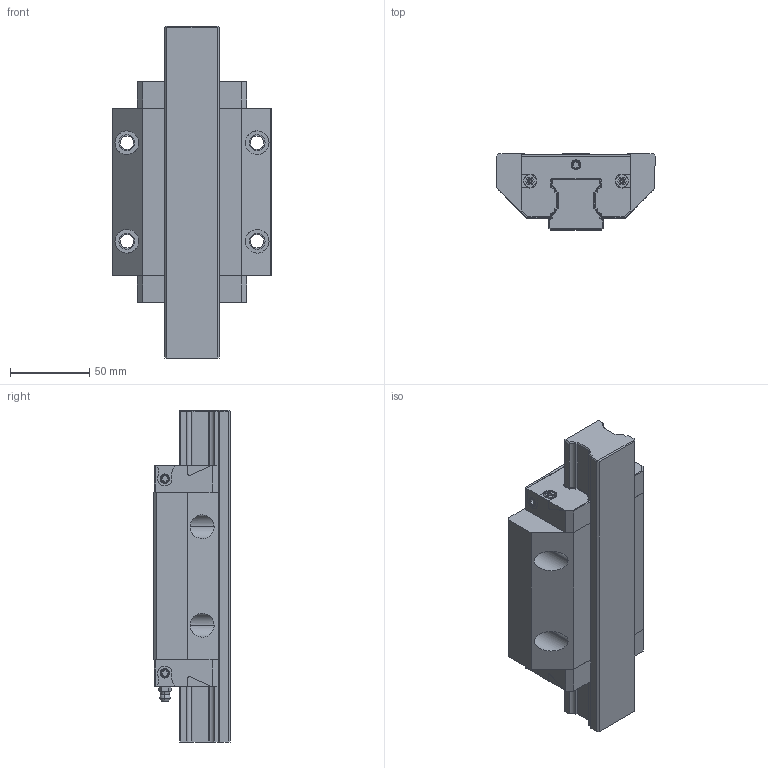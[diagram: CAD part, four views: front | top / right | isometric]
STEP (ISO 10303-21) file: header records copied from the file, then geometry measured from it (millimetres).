
FILE_DESCRIPTION((''),'2;1');
FILE_NAME('KWD_035_FLS_CS__ASM','2021-10-13T05:38:39',('ac91sw'),(''),'CREO PARAMETRIC BY PTC INC, 2020044','CREO PARAMETRIC BY PTC INC, 2020044','');
FILE_SCHEMA(('AUTOMOTIVE_DESIGN { 1 0 10303 214 1 1 1 1 }'));
Length unit declared in the file: millimetre
Products named in the file (7): KWD_035_FLS_CS__SKEL; R200230101; R200130102_Z; R343706101_Z; KWD_035_FLS_CS__PSF; R341700802_Z; KWD_035_FLS_CS__ASM
Assembly tree (11 placements, depth 2):
  KWD_035_FLS_CS__ASM
    KWD_035_FLS_CS__SKEL
    R200230101
    R200130102_Z  x2
    R343706101_Z  x5
    KWD_035_FLS_CS__PSF
    R341700802_Z
Bounding box: 100 x 48 x 209 mm (x, y, z)
Volume: 505928.7 mm3; surface area: 106659.6 mm2
Topology: 10 solids, 28 shells, 546 faces, 1398 edges, 894 vertices
Faces by surface type: plane 306, cylinder 166, cone 68, torus 4, sphere 2
Entity records: 17728 total; most frequent: CARTESIAN_POINT 2315, DIRECTION 1848, ORIENTED_EDGE 1716, EDGE_CURVE 882, PROPERTY_DEFINITION 824, REPRESENTATION 815, PROPERTY_DEFINITION_REPRESENTATION 815, DESCRIPTIVE_REPRESENTATION_ITEM 758
